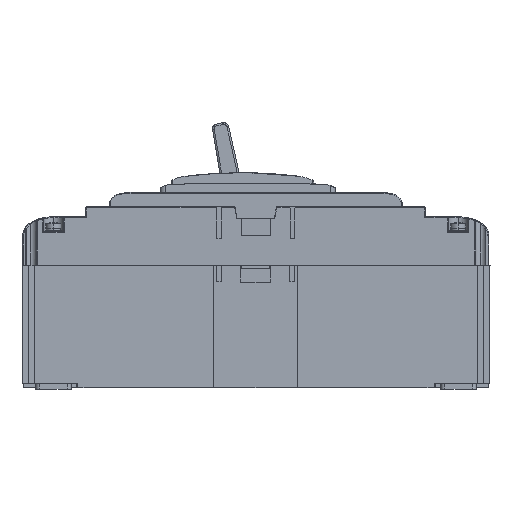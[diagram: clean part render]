
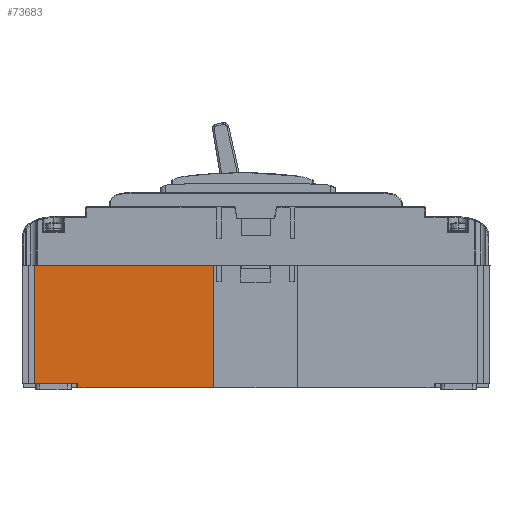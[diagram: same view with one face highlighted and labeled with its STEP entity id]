
A CAD part, left-side view. The second image highlights one B-rep face of the part: STEP entity #73683.
In plain terms, the highlighted planar face has unit normal (-1, 0, 0) as drawn and (1, 0, 0) by its records, which use the part's own axes.
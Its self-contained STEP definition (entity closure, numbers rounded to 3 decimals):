
#4462 = CARTESIAN_POINT ( 'NONE',  ( 282., 273.5, -74.5 ) ) ;
#12757 = CARTESIAN_POINT ( 'NONE',  ( 282., 247.4, -3.5 ) ) ;
#14769 = B_SPLINE_CURVE_WITH_KNOTS ( 'NONE', 3,
 ( #85360, #170607, #86434, #4462 ),
 .UNSPECIFIED., .F., .F.,
 ( 4, 4 ),
 ( 0., 1. ),
 .UNSPECIFIED. ) ;
#26185 = CARTESIAN_POINT ( 'NONE',  ( 282., 247.4, -1. ) ) ;
#33229 = VERTEX_POINT ( 'NONE', #206816 ) ;
#37911 = VERTEX_POINT ( 'NONE', #91051 ) ;
#41788 = AXIS2_PLACEMENT_3D ( 'NONE', #69260, #52816, #169822 ) ;
#42562 = CARTESIAN_POINT ( 'NONE',  ( 282., 247.4, -2.667 ) ) ;
#52816 = DIRECTION ( 'NONE',  ( 1., 0., 0. ) ) ;
#59428 = CARTESIAN_POINT ( 'NONE',  ( 282., 247.4, -3.5 ) ) ;
#60199 = CARTESIAN_POINT ( 'NONE',  ( 282., 165.8, -50. ) ) ;
#61575 = CARTESIAN_POINT ( 'NONE',  ( 282., 273.5, -3.5 ) ) ;
#69260 = CARTESIAN_POINT ( 'NONE',  ( 282., 219.65, -37.75 ) ) ;
#70728 = CARTESIAN_POINT ( 'NONE',  ( 282., 247.4, -1. ) ) ;
#71859 = CARTESIAN_POINT ( 'NONE',  ( 282., 273.5, -50.833 ) ) ;
#73683 = ADVANCED_FACE ( 'NONE', ( #102049 ), #152360, .T. ) ;
#75261 = ORIENTED_EDGE ( 'NONE', *, *, #127125, .T. ) ;
#76590 = B_SPLINE_CURVE_WITH_KNOTS ( 'NONE', 3,
 ( #154962, #71859, #138573, #117905 ),
 .UNSPECIFIED., .F., .F.,
 ( 4, 4 ),
 ( 0., 1. ),
 .UNSPECIFIED. ) ;
#79765 = ORIENTED_EDGE ( 'NONE', *, *, #205521, .F. ) ;
#85360 = CARTESIAN_POINT ( 'NONE',  ( 282., 165.8, -74.5 ) ) ;
#86434 = CARTESIAN_POINT ( 'NONE',  ( 282., 237.6, -74.5 ) ) ;
#88375 = EDGE_CURVE ( 'NONE', #33229, #37911, #181918, .T. ) ;
#88381 = VERTEX_POINT ( 'NONE', #91959 ) ;
#90363 = ORIENTED_EDGE ( 'NONE', *, *, #215292, .T. ) ;
#91051 = CARTESIAN_POINT ( 'NONE',  ( 282., 165.8, -74.5 ) ) ;
#91959 = CARTESIAN_POINT ( 'NONE',  ( 282., 273.5, -3.5 ) ) ;
#93036 = CARTESIAN_POINT ( 'NONE',  ( 282., 165.8, -1. ) ) ;
#102049 = FACE_OUTER_BOUND ( 'NONE', #163046, .T. ) ;
#106047 = B_SPLINE_CURVE_WITH_KNOTS ( 'NONE', 3,
 ( #192385, #42562, #175983, #26185 ),
 .UNSPECIFIED., .F., .F.,
 ( 4, 4 ),
 ( 0., 1. ),
 .UNSPECIFIED. ) ;
#106231 = ORIENTED_EDGE ( 'NONE', *, *, #197740, .T. ) ;
#112551 = VERTEX_POINT ( 'NONE', #203163 ) ;
#115008 = B_SPLINE_CURVE_WITH_KNOTS ( 'NONE', 3,
 ( #59428, #192866, #176449, #61575 ),
 .UNSPECIFIED., .F., .F.,
 ( 4, 4 ),
 ( 0., 1. ),
 .UNSPECIFIED. ) ;
#117905 = CARTESIAN_POINT ( 'NONE',  ( 282., 273.5, -3.5 ) ) ;
#127125 = EDGE_CURVE ( 'NONE', #175310, #158552, #106047, .T. ) ;
#128287 = CARTESIAN_POINT ( 'NONE',  ( 282., 247.4, -1. ) ) ;
#135623 = ORIENTED_EDGE ( 'NONE', *, *, #194685, .T. ) ;
#138573 = CARTESIAN_POINT ( 'NONE',  ( 282., 273.5, -27.167 ) ) ;
#145458 = CARTESIAN_POINT ( 'NONE',  ( 282., 165.8, -74.5 ) ) ;
#145742 = CARTESIAN_POINT ( 'NONE',  ( 282., 165.8, -1. ) ) ;
#152360 = PLANE ( 'NONE',  #41788 ) ;
#154962 = CARTESIAN_POINT ( 'NONE',  ( 282., 273.5, -74.5 ) ) ;
#158552 = VERTEX_POINT ( 'NONE', #70728 ) ;
#163046 = EDGE_LOOP ( 'NONE', ( #203489, #106231, #135623, #79765, #75261, #90363 ) ) ;
#169822 = DIRECTION ( 'NONE',  ( 0., 1., 0. ) ) ;
#170607 = CARTESIAN_POINT ( 'NONE',  ( 282., 201.7, -74.5 ) ) ;
#175310 = VERTEX_POINT ( 'NONE', #12757 ) ;
#175983 = CARTESIAN_POINT ( 'NONE',  ( 282., 247.4, -1.833 ) ) ;
#176449 = CARTESIAN_POINT ( 'NONE',  ( 282., 264.8, -3.5 ) ) ;
#181918 = B_SPLINE_CURVE_WITH_KNOTS ( 'NONE', 3,
 ( #93036, #208931, #60199, #145458 ),
 .UNSPECIFIED., .F., .F.,
 ( 4, 4 ),
 ( 0., 1. ),
 .UNSPECIFIED. ) ;
#190372 = B_SPLINE_CURVE_WITH_KNOTS ( 'NONE', 3,
 ( #128287, #212405, #194995, #145742 ),
 .UNSPECIFIED., .F., .F.,
 ( 4, 4 ),
 ( 0., 1. ),
 .UNSPECIFIED. ) ;
#192385 = CARTESIAN_POINT ( 'NONE',  ( 282., 247.4, -3.5 ) ) ;
#192866 = CARTESIAN_POINT ( 'NONE',  ( 282., 256.1, -3.5 ) ) ;
#194685 = EDGE_CURVE ( 'NONE', #112551, #88381, #76590, .T. ) ;
#194995 = CARTESIAN_POINT ( 'NONE',  ( 282., 193., -1. ) ) ;
#197740 = EDGE_CURVE ( 'NONE', #37911, #112551, #14769, .T. ) ;
#203163 = CARTESIAN_POINT ( 'NONE',  ( 282., 273.5, -74.5 ) ) ;
#203489 = ORIENTED_EDGE ( 'NONE', *, *, #88375, .T. ) ;
#205521 = EDGE_CURVE ( 'NONE', #175310, #88381, #115008, .T. ) ;
#206816 = CARTESIAN_POINT ( 'NONE',  ( 282., 165.8, -1. ) ) ;
#208931 = CARTESIAN_POINT ( 'NONE',  ( 282., 165.8, -25.5 ) ) ;
#212405 = CARTESIAN_POINT ( 'NONE',  ( 282., 220.2, -1. ) ) ;
#215292 = EDGE_CURVE ( 'NONE', #158552, #33229, #190372, .T. ) ;
